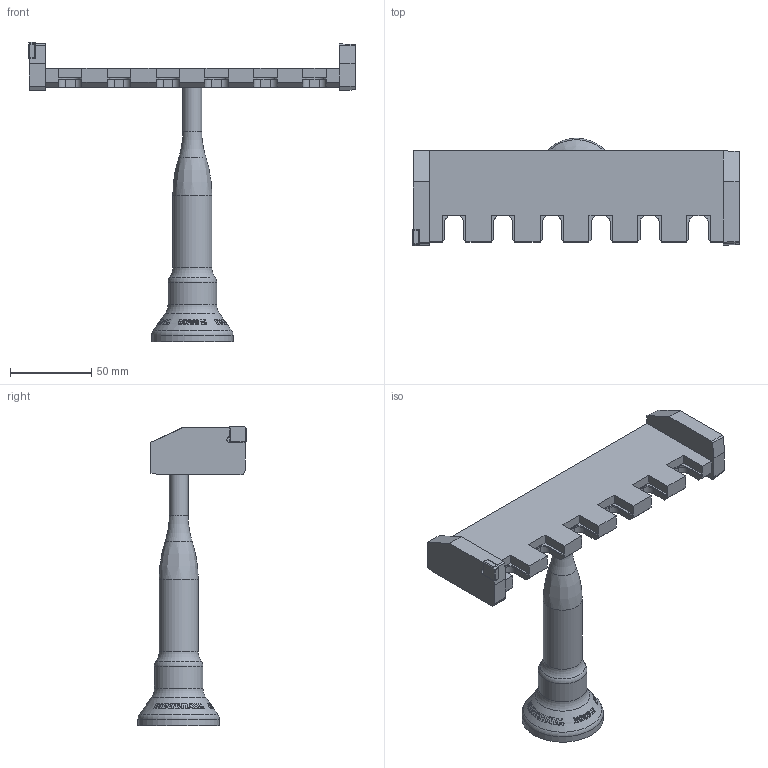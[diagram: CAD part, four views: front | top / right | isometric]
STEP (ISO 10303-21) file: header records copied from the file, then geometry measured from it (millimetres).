
FILE_DESCRIPTION(/* description */ (''),/* implementation_level */ '2;1');
FILE_NAME(/* name */ 'LA-3007-2225#-A.stp',/* time_stamp */ '2012-09-04T15:07:03+01:00',/* author */ (''),/* organization */ (''),/* preprocessor_version */ 'ST-DEVELOPER v11',/* originating_system */ 'SIEMENS PLM Software NX 7.5',/* authorisation */ '');
FILE_SCHEMA (('AUTOMOTIVE_DESIGN { 1 0 10303 214 1 1 1 1 }'));
Length unit declared in the file: millimetre
Products named in the file (1): rt133622tjts
Bounding box: 200.4 x 66.35 x 183.93 mm (x, y, z)
Volume: 213681.1 mm3; surface area: 46347.5 mm2
Topology: 1 solids, 1 shells, 220 faces, 848 edges, 645 vertices
Faces by surface type: plane 129, cylinder 44, cone 30, sphere 10, torus 5, bspline 2
Full cylindrical faces by diameter (mm): 11.5 x1, 24 x1, 29.8 x1, 50 x1
Entity records: 10907 total; most frequent: CARTESIAN_POINT 2735, ORIENTED_EDGE 1636, DIRECTION 1020, EDGE_CURVE 818, VERTEX_POINT 637, LINE 398, VECTOR 398, B_SPLINE_CURVE_WITH_KNOTS 328
